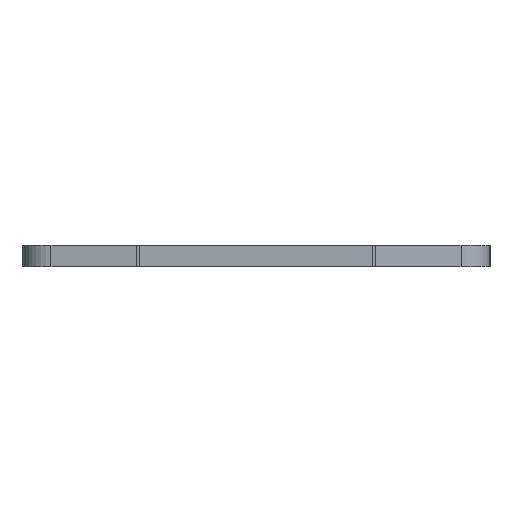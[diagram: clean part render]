
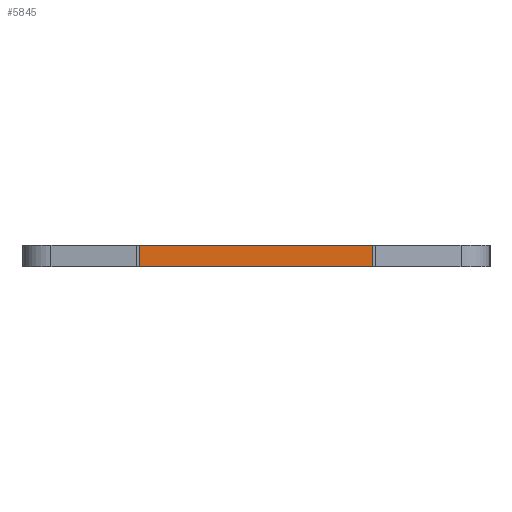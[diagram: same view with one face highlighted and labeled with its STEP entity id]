
A CAD part, left-side view. The second image highlights one B-rep face of the part: STEP entity #5845.
In plain terms, the highlighted planar face has unit normal (-1, 0, 0).
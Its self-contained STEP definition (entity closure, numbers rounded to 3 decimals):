
#188 = VERTEX_POINT ( 'NONE', #1477 ) ;
#206 = FACE_OUTER_BOUND ( 'NONE', #2830, .T. ) ;
#256 = CARTESIAN_POINT ( 'NONE',  ( -66., 11.006, 2. ) ) ;
#262 = CARTESIAN_POINT ( 'NONE',  ( -66., -11.006, 0. ) ) ;
#383 = EDGE_CURVE ( 'NONE', #188, #392, #447, .T. ) ;
#392 = VERTEX_POINT ( 'NONE', #262 ) ;
#447 = LINE ( 'NONE', #1828, #1846 ) ;
#1009 = EDGE_CURVE ( 'NONE', #4146, #188, #2670, .T. ) ;
#1225 = PLANE ( 'NONE',  #2841 ) ;
#1413 = CARTESIAN_POINT ( 'NONE',  ( -66., 11.006, 0. ) ) ;
#1477 = CARTESIAN_POINT ( 'NONE',  ( -66., -11.006, 2. ) ) ;
#1514 = LINE ( 'NONE', #4267, #4188 ) ;
#1712 = CARTESIAN_POINT ( 'NONE',  ( -66., 11.006, 2. ) ) ;
#1728 = ORIENTED_EDGE ( 'NONE', *, *, #3813, .T. ) ;
#1828 = CARTESIAN_POINT ( 'NONE',  ( -66., -11.006, 2. ) ) ;
#1846 = VECTOR ( 'NONE', #3719, 1000. ) ;
#2055 = DIRECTION ( 'NONE',  ( 0., 0., -1. ) ) ;
#2670 = LINE ( 'NONE', #5118, #4298 ) ;
#2830 = EDGE_LOOP ( 'NONE', ( #5489, #3109, #4358, #1728 ) ) ;
#2841 = AXIS2_PLACEMENT_3D ( 'NONE', #3531, #4466, #3921 ) ;
#3109 = ORIENTED_EDGE ( 'NONE', *, *, #383, .F. ) ;
#3531 = CARTESIAN_POINT ( 'NONE',  ( -66., 0., 2. ) ) ;
#3586 = LINE ( 'NONE', #256, #5103 ) ;
#3719 = DIRECTION ( 'NONE',  ( 0., 0., -1. ) ) ;
#3813 = EDGE_CURVE ( 'NONE', #4146, #5689, #3586, .T. ) ;
#3921 = DIRECTION ( 'NONE',  ( 0., 0., -1. ) ) ;
#4077 = DIRECTION ( 'NONE',  ( 0., -1., 0. ) ) ;
#4146 = VERTEX_POINT ( 'NONE', #1712 ) ;
#4188 = VECTOR ( 'NONE', #5304, 1000. ) ;
#4267 = CARTESIAN_POINT ( 'NONE',  ( -66., 0., 0. ) ) ;
#4298 = VECTOR ( 'NONE', #4077, 1000. ) ;
#4358 = ORIENTED_EDGE ( 'NONE', *, *, #1009, .F. ) ;
#4466 = DIRECTION ( 'NONE',  ( 1., 0., 0. ) ) ;
#5103 = VECTOR ( 'NONE', #2055, 1000. ) ;
#5118 = CARTESIAN_POINT ( 'NONE',  ( -66., 0., 2. ) ) ;
#5264 = EDGE_CURVE ( 'NONE', #5689, #392, #1514, .T. ) ;
#5304 = DIRECTION ( 'NONE',  ( 0., -1., 0. ) ) ;
#5489 = ORIENTED_EDGE ( 'NONE', *, *, #5264, .T. ) ;
#5689 = VERTEX_POINT ( 'NONE', #1413 ) ;
#5845 = ADVANCED_FACE ( 'NONE', ( #206 ), #1225, .F. ) ;
